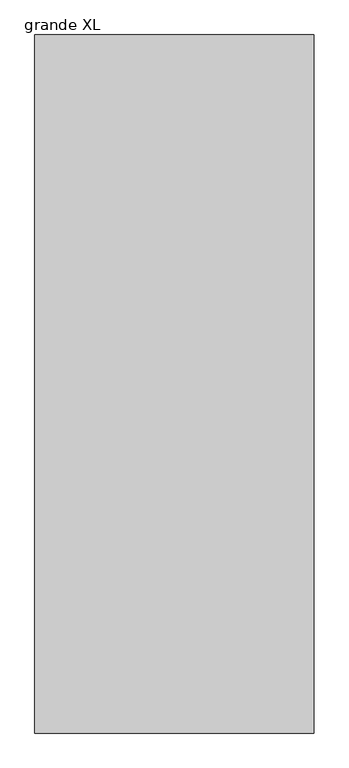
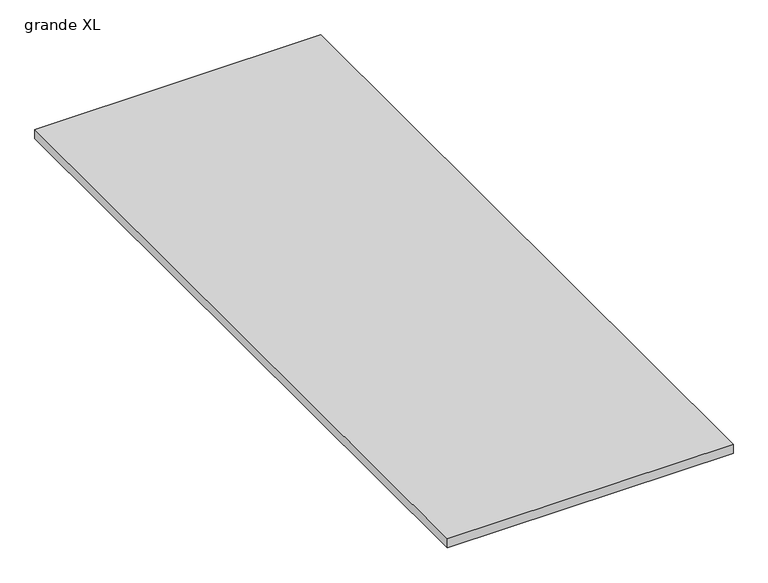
"""IFC4 building model written with IfcOpenShell, lengths in millimetres: proxy geometry, OWA Creaprint : grande XL."""

import ifcopenshell
import ifcopenshell.guid

model = None  # the IFC model being written
_history = None  # IfcOwnerHistory: only IFC2X3 demands one
_inside = {}  # id of a spatial element -> (the spatial element, [elements in it])
_under = {}  # id of a project, library or spatial element -> (it, [spatial elements below it])
_declared = {}  # id of a project -> (the project, [libraries it declares])
_typed = {}  # id of a type object -> (the type object, [elements of that type])
_made_of = {}  # id of a material, layer set ... -> (it, [elements and type objects made of it])


def new_model(schema):
    """Start an empty IFC model of exactly this schema.

    Asked for "IFC4X3", IfcOpenShell would pick the latest addendum, in which some entities
    have other attributes; the version numbers below select the first issue.
    IFC2X3 requires an IfcOwnerHistory on every rooted entity: one is made here for all.
    """
    global model, _history
    if schema == "IFC4X3":
        model = ifcopenshell.file(schema_version=(4, 3, 0, 0))
    else:
        model = ifcopenshell.file(schema=schema)
    _inside.clear()
    _under.clear()
    _declared.clear()
    _typed.clear()
    _made_of.clear()
    _history = None
    if model.schema == "IFC2X3":
        org = make("IfcOrganization", Name="unknown")
        user = make(
            "IfcPersonAndOrganization",
            ThePerson=make("IfcPerson", FamilyName="unknown"),
            TheOrganization=org,
        )
        app = make(
            "IfcApplication",
            ApplicationDeveloper=org,
            Version="unknown",
            ApplicationFullName="unknown",
            ApplicationIdentifier="unknown",
        )
        _history = make(
            "IfcOwnerHistory",
            OwningUser=user,
            OwningApplication=app,
            ChangeAction="ADDED",
            CreationDate=0,
        )
    return model


def make(cls, **values):
    """One entity of the class cls with the attributes given. An attribute that is None is left unset."""
    return model.create_entity(
        cls, **{name: value for name, value in values.items() if value is not None}
    )


def rooted(cls, **values):
    """An entity with a GlobalId (a new one), such as an element, a storey or a relation."""
    return make(cls, GlobalId=ifcopenshell.guid.new(), OwnerHistory=_history, **values)


def si_unit(unit_type, name, prefix=None):
    """IfcSIUnit, for example si_unit("LENGTHUNIT", "METRE", prefix="MILLI")."""
    return make("IfcSIUnit", UnitType=unit_type, Prefix=prefix, Name=name)


def assignment(units):
    """IfcUnitAssignment: the units of a project."""
    return None if units is None else make("IfcUnitAssignment", Units=units)


def point(xyz):
    """IfcCartesianPoint."""
    return None if xyz is None else make("IfcCartesianPoint", Coordinates=xyz)


def direction(xyz):
    """IfcDirection."""
    return None if xyz is None else make("IfcDirection", DirectionRatios=xyz)


def frame(location, z_axis=None, x_axis=None):
    """IfcAxis2Placement3D, a coordinate frame: its origin and axes. An axis left out is left unset."""
    return make(
        "IfcAxis2Placement3D",
        Location=point(location),
        Axis=direction(z_axis),
        RefDirection=direction(x_axis),
    )


def origin():
    """The frame at (0, 0, 0) with its axes left unset."""
    return frame((0.0, 0.0, 0.0))


def origin_with_axes():
    """The frame at (0, 0, 0) with the z axis (0, 0, 1) and the x axis (1, 0, 0) written out."""
    return frame((0.0, 0.0, 0.0), z_axis=(0.0, 0.0, 1.0), x_axis=(1.0, 0.0, 0.0))


def place(relative_to, where):
    """IfcLocalPlacement: puts the frame where relative to a parent placement (None: the world)."""
    return make(
        "IfcLocalPlacement", PlacementRelTo=relative_to, RelativePlacement=where
    )


def context(
    kind, dimensions, precision=None, world=None, true_north=None, identifier=None
):
    """IfcGeometricRepresentationContext, for example the 3D "Model" context."""
    return make(
        "IfcGeometricRepresentationContext",
        ContextIdentifier=identifier,
        ContextType=kind,
        CoordinateSpaceDimension=dimensions,
        Precision=precision,
        WorldCoordinateSystem=world,
        TrueNorth=true_north,
    )


def project(units=None, contexts=None):
    """IfcProject with its units and contexts."""
    return rooted(
        "IfcProject",
        Name="project",
        RepresentationContexts=contexts,
        UnitsInContext=assignment(units),
    )


def spatial(cls, under=None, at=None, **own):
    """A site, building, storey or space (cls), placed at a placement, below another one or the project."""
    s = rooted(cls, ObjectPlacement=at, **own)
    if under is not None:
        _under.setdefault(under.id(), (under, []))[1].append(s)
    return s


def polyline(points):
    """IfcPolyline through the points."""
    return make("IfcPolyline", Points=[point(p) for p in points])


def outline(outer, holes=None, kind="AREA"):
    """IfcArbitraryClosedProfileDef: a profile drawn as a closed curve; with holes, ...WithVoids."""
    if holes is None:
        return make("IfcArbitraryClosedProfileDef", ProfileType=kind, OuterCurve=outer)
    return make(
        "IfcArbitraryProfileDefWithVoids",
        ProfileType=kind,
        OuterCurve=outer,
        InnerCurves=holes,
    )


def extrude(swept, where, along, depth):
    """IfcExtrudedAreaSolid: the profile swept, set in the frame where, extruded along a direction by depth."""
    return make(
        "IfcExtrudedAreaSolid",
        SweptArea=swept,
        Position=where,
        ExtrudedDirection=direction(along),
        Depth=depth,
    )


def shape(context_of_items, identifier, shape_type, items):
    """IfcShapeRepresentation: the items that make up one representation, for example the "Body"."""
    return make(
        "IfcShapeRepresentation",
        ContextOfItems=context_of_items,
        RepresentationIdentifier=identifier,
        RepresentationType=shape_type,
        Items=items,
    )


def source(mapping_origin, context_of_items, identifier, shape_type, items):
    """IfcRepresentationMap: a shape defined once, which mapped items show again and again."""
    return make(
        "IfcRepresentationMap",
        MappingOrigin=mapping_origin,
        MappedRepresentation=shape(context_of_items, identifier, shape_type, items),
    )


def transform(
    local_origin,
    x_axis=None,
    y_axis=None,
    z_axis=None,
    scale=None,
    scale2=None,
    scale3=None,
    uniform=True,
):
    """IfcCartesianTransformationOperator3D, or its non-uniform kind. x_axis, y_axis, z_axis: its Axis1, 2, 3."""
    if uniform:
        return make(
            "IfcCartesianTransformationOperator3D",
            Axis1=direction(x_axis),
            Axis2=direction(y_axis),
            LocalOrigin=point(local_origin),
            Scale=scale,
            Axis3=direction(z_axis),
        )
    return make(
        "IfcCartesianTransformationOperator3DnonUniform",
        Axis1=direction(x_axis),
        Axis2=direction(y_axis),
        LocalOrigin=point(local_origin),
        Scale=scale,
        Axis3=direction(z_axis),
        Scale2=scale2,
        Scale3=scale3,
    )


def mapped(mapping_source, mapping_target):
    """IfcMappedItem: shows the shape of a source again, moved by a transform."""
    return make(
        "IfcMappedItem", MappingSource=mapping_source, MappingTarget=mapping_target
    )


def made_of(thing, what):
    """Note that an element or type object is made of a material, layer set ...; save() writes the relation."""
    if what is not None:
        _made_of.setdefault(what.id(), (what, []))[1].append(thing)
    return thing


def element(
    cls,
    number,
    at=None,
    inside=None,
    cuts=None,
    type_object=None,
    material=None,
    context=None,
    identifier="Body",
    shape_type=None,
    held_by="IfcProductDefinitionShape",
    body=None,
    shapes=None,
    **own,
):
    """One element of the class cls, such as IfcWall. Its Tag is "e" and its number.

    at: its placement. inside: the storey or other place that contains it. cuts: it is an
    opening in that element (IfcRelVoidsElement). A single representation is given by context,
    identifier, shape_type and body (its items); several are given by shapes. held_by: the class
    of the entity that holds the representations. save() writes the other relations.
    """
    e = rooted(cls, Tag="e%d" % number, ObjectPlacement=at, **own)
    if body is not None:
        shapes = [shape(context, identifier, shape_type, body)]
    if shapes is not None:
        e.Representation = make(held_by, Representations=shapes)
    if inside is not None:
        _inside.setdefault(inside.id(), (inside, []))[1].append(e)
    if cuts is not None:
        rooted(
            "IfcRelVoidsElement", RelatingBuildingElement=cuts, RelatedOpeningElement=e
        )
    if type_object is not None:
        _typed.setdefault(type_object.id(), (type_object, []))[1].append(e)
    return made_of(e, material)


def aggregate(whole, parts):
    """IfcRelAggregates: a whole, such as a stair, and the parts it consists of."""
    return rooted("IfcRelAggregates", RelatingObject=whole, RelatedObjects=parts)


def save(model, path):
    """Write the relations noted so far, then the file.

    IfcRelAggregates (storeys below a building ...), IfcRelContainedInSpatialStructure (elements
    in a storey), IfcRelDefinesByType, IfcRelAssociatesMaterial and IfcRelDeclares: one each for
    every whole, place, type object, material and project.
    """
    for whole, parts in _under.values():
        aggregate(whole, parts)
    for where, things in _inside.values():
        rooted(
            "IfcRelContainedInSpatialStructure",
            RelatedElements=things,
            RelatingStructure=where,
        )
    for kind, things in _typed.values():
        rooted("IfcRelDefinesByType", RelatedObjects=things, RelatingType=kind)
    for what, things in _made_of.values():
        rooted("IfcRelAssociatesMaterial", RelatedObjects=things, RelatingMaterial=what)
    for by, libraries in _declared.values():
        rooted("IfcRelDeclares", RelatingContext=by, RelatedDefinitions=libraries)
    model.write(path)


def grande_xl_f58ea504(model_context):
    return source(origin(), model_context, "Body", "SweptSolid", [
        extrude(outline(polyline([(-1033.5, 1500.0), (166.5, 1500.0), (166.5, -1500.0), (-1033.5, -1500.0), (-1033.5, 1500.0)])), origin_with_axes(), (0.0, 0.0, 1.0), 40.0),
    ])


if __name__ == "__main__":
    model = new_model("IFC4")
    model_context = context("Model", 3, world=origin())
    ifc_project = project(units=[si_unit("LENGTHUNIT", "METRE", prefix="MILLI")], contexts=[model_context])
    site = spatial("IfcSite", under=ifc_project)
    building = spatial("IfcBuilding", under=site)
    placement = place(None, origin())
    grande_xl_shape = grande_xl_f58ea504(model_context)
    element("IfcBuildingElementProxy", 1, Name="OWA Creaprint : grande XL", ObjectType="OWA Creaprint : grande XL", at=placement, inside=building, context=model_context, shape_type="MappedRepresentation", body=[
        mapped(grande_xl_shape, transform((0.0, 0.0, 0.0), x_axis=(1.0, 0.0, 0.0), y_axis=(0.0, 1.0, 0.0), z_axis=(0.0, 0.0, 1.0))),
    ])
    save(model, "model.ifc")
